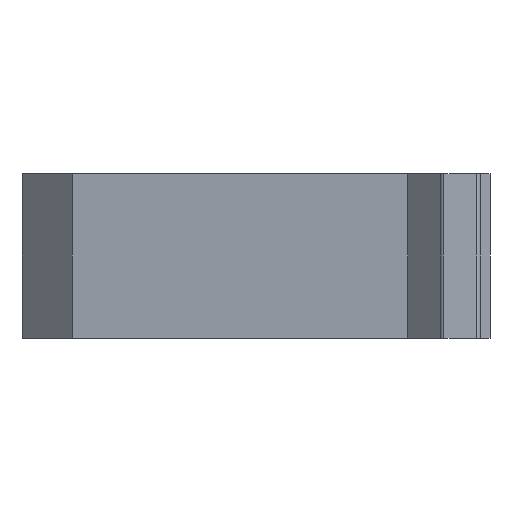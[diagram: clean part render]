
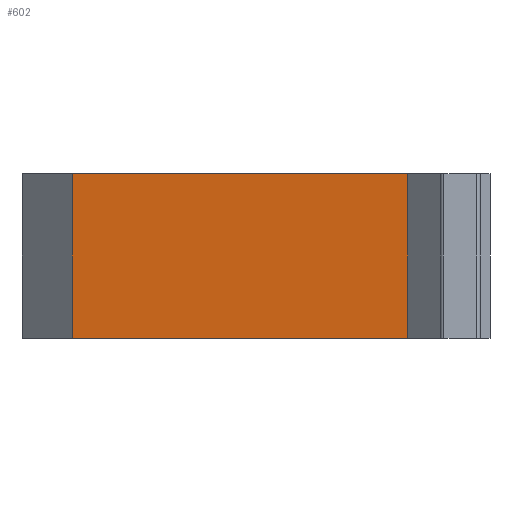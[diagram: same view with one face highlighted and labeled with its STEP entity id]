
A CAD part, front view. The second image highlights one B-rep face of the part: STEP entity #602.
In plain terms, the highlighted planar face has unit normal (-0.124, -0.992, 0).
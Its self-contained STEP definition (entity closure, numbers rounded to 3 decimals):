
#6 = ORIENTED_EDGE ( 'NONE', *, *, #60, .T. ) ;
#23 = DIRECTION ( 'NONE',  ( 0.992, -0.124, 0. ) ) ;
#60 = EDGE_CURVE ( 'NONE', #907, #1270, #1177, .T. ) ;
#96 = CARTESIAN_POINT ( 'NONE',  ( -10.994, 24.394, 0. ) ) ;
#99 = DIRECTION ( 'NONE',  ( -0.124, -0.992, 0. ) ) ;
#129 = AXIS2_PLACEMENT_3D ( 'NONE', #201, #99, #23 ) ;
#201 = CARTESIAN_POINT ( 'NONE',  ( -10.994, 24.394, 25. ) ) ;
#204 = LINE ( 'NONE', #600, #561 ) ;
#210 = EDGE_CURVE ( 'NONE', #364, #907, #204, .T. ) ;
#219 = FACE_OUTER_BOUND ( 'NONE', #376, .T. ) ;
#249 = VERTEX_POINT ( 'NONE', #96 ) ;
#364 = VERTEX_POINT ( 'NONE', #427 ) ;
#376 = EDGE_LOOP ( 'NONE', ( #488, #588, #499, #6 ) ) ;
#406 = DIRECTION ( 'NONE',  ( -0.992, 0.124, 0. ) ) ;
#427 = CARTESIAN_POINT ( 'NONE',  ( -10.994, 24.394, 25. ) ) ;
#456 = LINE ( 'NONE', #813, #774 ) ;
#467 = EDGE_CURVE ( 'NONE', #249, #1270, #825, .T. ) ;
#481 = CARTESIAN_POINT ( 'NONE',  ( -61.843, 30.742, 25. ) ) ;
#488 = ORIENTED_EDGE ( 'NONE', *, *, #467, .F. ) ;
#497 = DIRECTION ( 'NONE',  ( 0., 0., -1. ) ) ;
#499 = ORIENTED_EDGE ( 'NONE', *, *, #210, .T. ) ;
#525 = CARTESIAN_POINT ( 'NONE',  ( -61.843, 30.742, 0. ) ) ;
#537 = DIRECTION ( 'NONE',  ( -0.992, 0.124, 0. ) ) ;
#561 = VECTOR ( 'NONE', #406, 1000. ) ;
#588 = ORIENTED_EDGE ( 'NONE', *, *, #1080, .F. ) ;
#600 = CARTESIAN_POINT ( 'NONE',  ( -10.994, 24.394, 25. ) ) ;
#602 = ADVANCED_FACE ( 'NONE', ( #219 ), #1018, .T. ) ;
#643 = VECTOR ( 'NONE', #928, 1000. ) ;
#725 = CARTESIAN_POINT ( 'NONE',  ( -61.843, 30.742, 25. ) ) ;
#774 = VECTOR ( 'NONE', #497, 1000. ) ;
#813 = CARTESIAN_POINT ( 'NONE',  ( -10.994, 24.394, 25. ) ) ;
#825 = LINE ( 'NONE', #1234, #1026 ) ;
#907 = VERTEX_POINT ( 'NONE', #481 ) ;
#928 = DIRECTION ( 'NONE',  ( 0., 0., -1. ) ) ;
#1018 = PLANE ( 'NONE',  #129 ) ;
#1026 = VECTOR ( 'NONE', #537, 1000. ) ;
#1080 = EDGE_CURVE ( 'NONE', #364, #249, #456, .T. ) ;
#1177 = LINE ( 'NONE', #725, #643 ) ;
#1234 = CARTESIAN_POINT ( 'NONE',  ( -10.994, 24.394, 0. ) ) ;
#1270 = VERTEX_POINT ( 'NONE', #525 ) ;
